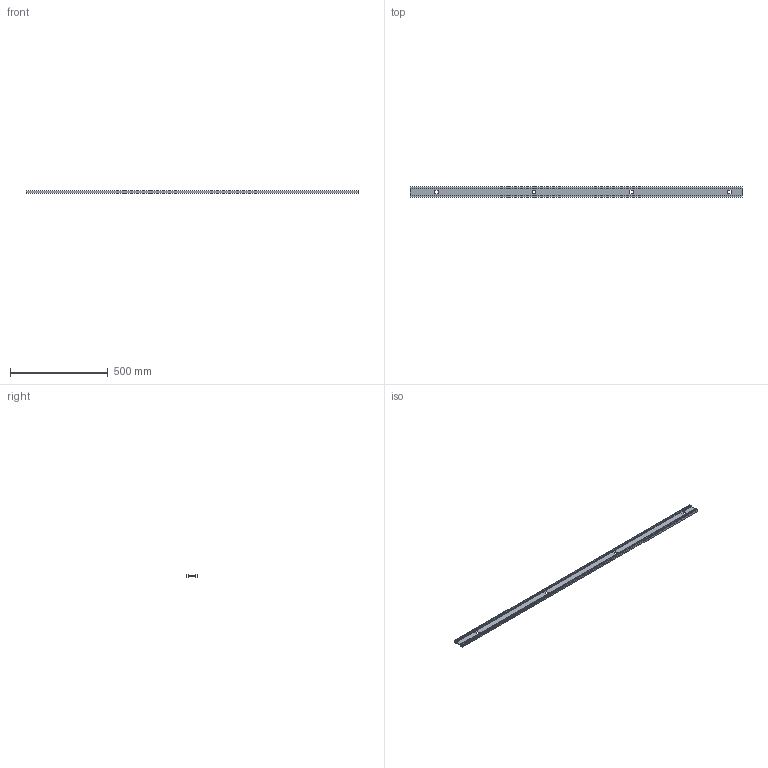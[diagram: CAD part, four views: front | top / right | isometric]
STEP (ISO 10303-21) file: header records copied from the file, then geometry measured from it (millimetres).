
FILE_DESCRIPTION(('STEP AP242'),'1');
FILE_NAME('OPO_65.081.71_volu_3d.stp','2026-01-30T20:51:28',(' '),(' '),'Spatial InterOp 3D',' ',' ');
FILE_SCHEMA(('AP242_MANAGED_MODEL_BASED_3D_ENGINEERING_MIM_LF {1 0 10303 442 1 1 4}'));
Length unit declared in the file: millimetre
Products named in the file (1): 1
Bounding box: 1700 x 55 x 15 mm (x, y, z)
Volume: 417712 mm3; surface area: 365968 mm2
Topology: 1 solids, 1 shells, 88 faces, 244 edges, 162 vertices
Faces by surface type: plane 68, cylinder 20
Entity records: 3528 total; most frequent: CARTESIAN_POINT 495, ORIENTED_EDGE 488, DIRECTION 462, EDGE_CURVE 244, LINE 204, VECTOR 204, VERTEX_POINT 162, AXIS2_PLACEMENT_3D 129
